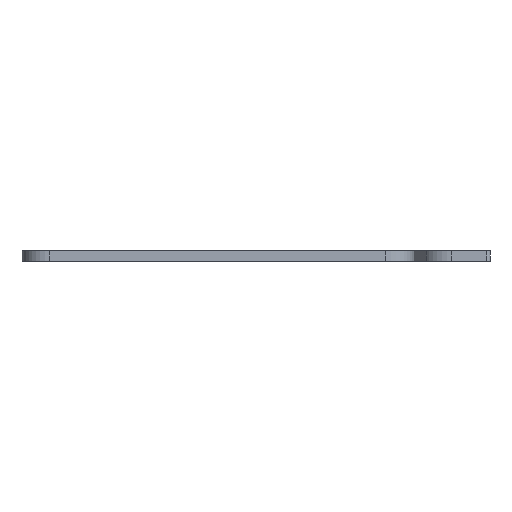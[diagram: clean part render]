
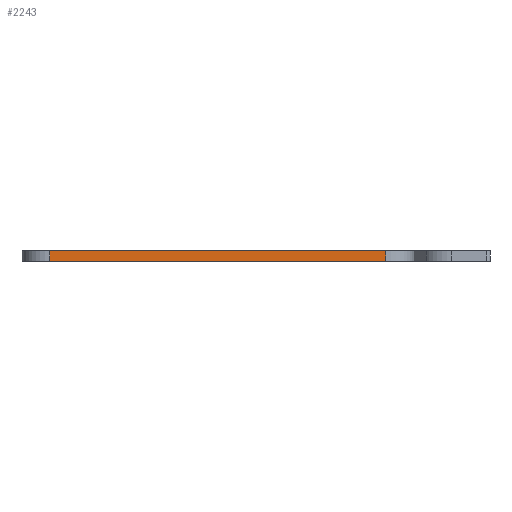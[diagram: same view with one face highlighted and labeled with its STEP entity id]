
A CAD part, front view. The second image highlights one B-rep face of the part: STEP entity #2243.
In plain terms, the highlighted planar face has unit normal (0, -1, 0).
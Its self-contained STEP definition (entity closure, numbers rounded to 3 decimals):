
#109=PLANE('',#2471);
#203=FACE_OUTER_BOUND('',#325,.T.);
#325=EDGE_LOOP('',(#1805,#1806,#1807,#1808));
#525=LINE('',#3665,#737);
#526=LINE('',#3667,#738);
#527=LINE('',#3669,#739);
#528=LINE('',#3670,#740);
#737=VECTOR('',#2989,10.);
#738=VECTOR('',#2990,10.);
#739=VECTOR('',#2991,10.);
#740=VECTOR('',#2992,10.);
#1065=VERTEX_POINT('',#3663);
#1066=VERTEX_POINT('',#3664);
#1067=VERTEX_POINT('',#3666);
#1068=VERTEX_POINT('',#3668);
#1349=EDGE_CURVE('',#1065,#1066,#525,.T.);
#1350=EDGE_CURVE('',#1065,#1067,#526,.T.);
#1351=EDGE_CURVE('',#1068,#1067,#527,.T.);
#1352=EDGE_CURVE('',#1066,#1068,#528,.T.);
#1805=ORIENTED_EDGE('',*,*,#1349,.F.);
#1806=ORIENTED_EDGE('',*,*,#1350,.T.);
#1807=ORIENTED_EDGE('',*,*,#1351,.F.);
#1808=ORIENTED_EDGE('',*,*,#1352,.F.);
#2243=ADVANCED_FACE('',(#203),#109,.T.);
#2471=AXIS2_PLACEMENT_3D('',#3662,#2987,#2988);
#2987=DIRECTION('center_axis',(0.,-1.,0.));
#2988=DIRECTION('ref_axis',(1.,0.,0.));
#2989=DIRECTION('',(-1.,0.,0.));
#2990=DIRECTION('',(0.,0.,1.));
#2991=DIRECTION('',(1.,0.,0.));
#2992=DIRECTION('',(0.,0.,1.));
#3662=CARTESIAN_POINT('Origin',(100.,425.,0.));
#3663=CARTESIAN_POINT('',(700.,425.,0.));
#3664=CARTESIAN_POINT('',(100.,425.,0.));
#3665=CARTESIAN_POINT('',(700.,425.,0.));
#3666=CARTESIAN_POINT('',(700.,425.,18.));
#3667=CARTESIAN_POINT('',(700.,425.,0.));
#3668=CARTESIAN_POINT('',(100.,425.,18.));
#3669=CARTESIAN_POINT('',(700.,425.,18.));
#3670=CARTESIAN_POINT('',(100.,425.,0.));
